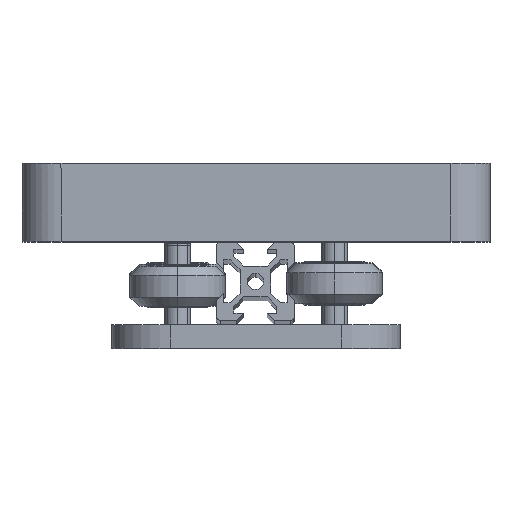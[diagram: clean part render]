
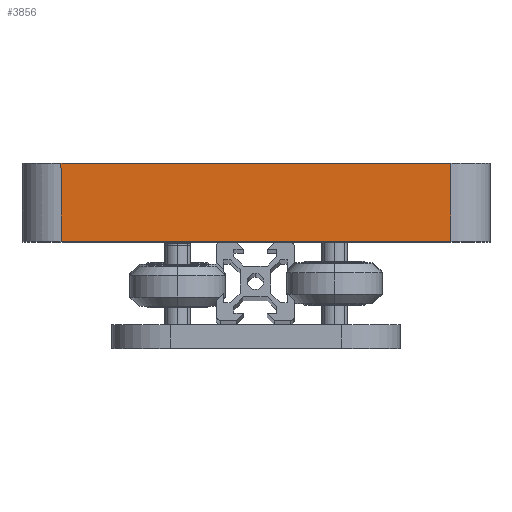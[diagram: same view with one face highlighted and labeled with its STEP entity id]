
A CAD part, top view. The second image highlights one B-rep face of the part: STEP entity #3856.
In plain terms, the highlighted planar face has unit normal (0, 0, 1) as drawn and (0, 1, 0) by its records, which use the part's own axes.
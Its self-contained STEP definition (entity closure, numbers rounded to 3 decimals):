
#366 = LINE ( 'NONE', #3097, #1358 ) ;
#566 = CARTESIAN_POINT ( 'NONE',  ( -70., -33.404, -14. ) ) ;
#739 = ORIENTED_EDGE ( 'NONE', *, *, #3970, .F. ) ;
#755 = CARTESIAN_POINT ( 'NONE',  ( -60., -33.404, 6. ) ) ;
#842 = VERTEX_POINT ( 'NONE', #4932 ) ;
#1358 = VECTOR ( 'NONE', #2021, 1000. ) ;
#1454 = LINE ( 'NONE', #566, #2571 ) ;
#1556 = DIRECTION ( 'NONE',  ( -1., 0., 0. ) ) ;
#1841 = PLANE ( 'NONE',  #3533 ) ;
#1967 = DIRECTION ( 'NONE',  ( 0., -1., 0. ) ) ;
#2021 = DIRECTION ( 'NONE',  ( 0., 0., -1. ) ) ;
#2238 = VECTOR ( 'NONE', #1556, 1000. ) ;
#2265 = CARTESIAN_POINT ( 'NONE',  ( 50., -33.404, 6. ) ) ;
#2375 = ORIENTED_EDGE ( 'NONE', *, *, #3003, .F. ) ;
#2571 = VECTOR ( 'NONE', #4318, 1000. ) ;
#2874 = VERTEX_POINT ( 'NONE', #3042 ) ;
#2994 = EDGE_LOOP ( 'NONE', ( #2375, #3392, #739, #3078 ) ) ;
#3003 = EDGE_CURVE ( 'NONE', #5089, #2874, #1454, .T. ) ;
#3042 = CARTESIAN_POINT ( 'NONE',  ( 40., -33.404, -14. ) ) ;
#3078 = ORIENTED_EDGE ( 'NONE', *, *, #3932, .T. ) ;
#3097 = CARTESIAN_POINT ( 'NONE',  ( 40., -33.404, 6. ) ) ;
#3107 = EDGE_CURVE ( 'NONE', #5089, #3161, #4456, .T. ) ;
#3161 = VERTEX_POINT ( 'NONE', #3278 ) ;
#3199 = DIRECTION ( 'NONE',  ( 0., 0., 1. ) ) ;
#3278 = CARTESIAN_POINT ( 'NONE',  ( -60., -33.404, 6. ) ) ;
#3392 = ORIENTED_EDGE ( 'NONE', *, *, #3107, .T. ) ;
#3441 = CARTESIAN_POINT ( 'NONE',  ( -60., -33.404, -14. ) ) ;
#3533 = AXIS2_PLACEMENT_3D ( 'NONE', #2265, #1967, #5292 ) ;
#3629 = CARTESIAN_POINT ( 'NONE',  ( 50., -33.404, 6. ) ) ;
#3856 = ADVANCED_FACE ( 'NONE', ( #4455 ), #1841, .F. ) ;
#3932 = EDGE_CURVE ( 'NONE', #842, #2874, #366, .T. ) ;
#3954 = VECTOR ( 'NONE', #3199, 1000. ) ;
#3970 = EDGE_CURVE ( 'NONE', #842, #3161, #4038, .T. ) ;
#4038 = LINE ( 'NONE', #3629, #2238 ) ;
#4318 = DIRECTION ( 'NONE',  ( 1., 0., 0. ) ) ;
#4455 = FACE_OUTER_BOUND ( 'NONE', #2994, .T. ) ;
#4456 = LINE ( 'NONE', #755, #3954 ) ;
#4932 = CARTESIAN_POINT ( 'NONE',  ( 40., -33.404, 6. ) ) ;
#5089 = VERTEX_POINT ( 'NONE', #3441 ) ;
#5292 = DIRECTION ( 'NONE',  ( 0., 0., -1. ) ) ;
